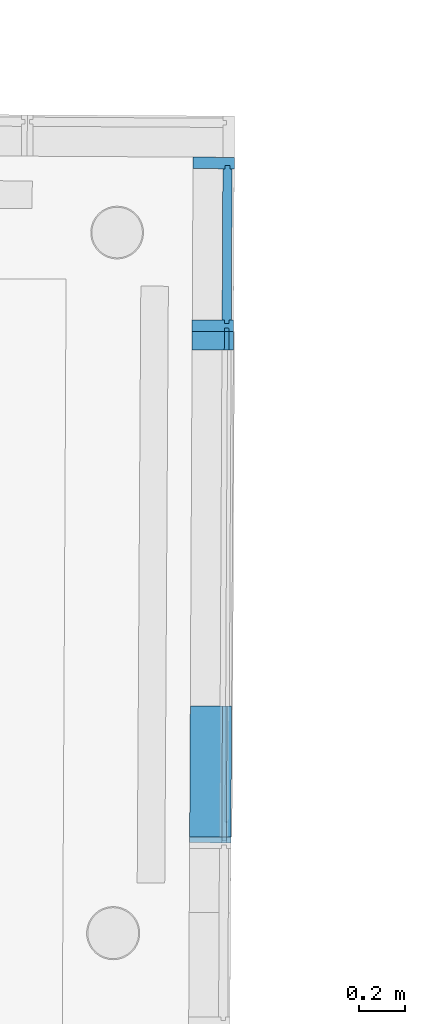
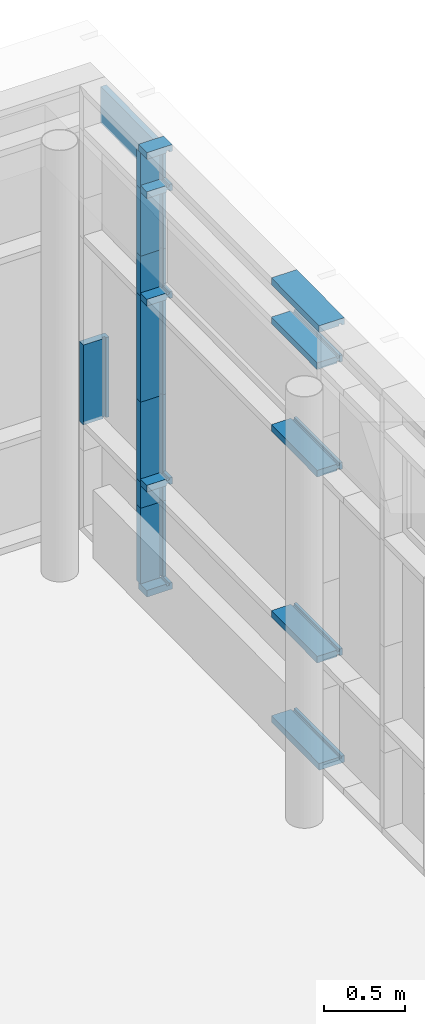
# One storey, part 184 of 196: 19 building element parts, 1 element without a shape of its own.
"""IFC2X3 building model written with IfcOpenShell, lengths in metres."""

from ifc_helpers import new_model, entity, si_unit, converted_unit, derived_unit, money_unit, direction, frame, origin_with_axes, place, context, subcontext, project, spatial, faceted_brep, material, type_object, element, aggregate, save


model = new_model("IFC2X3")

# Units and contexts
model_context = context("Model", 3, precision=1e-05, world=origin_with_axes(), true_north=direction((0.0, 1.0)))
body_context = subcontext(model_context, "Body", "Model", "MODEL_VIEW")
ifc_project = project(units=[si_unit("LENGTHUNIT", "METRE"), si_unit("AREAUNIT", "SQUARE_METRE"), si_unit("VOLUMEUNIT", "CUBIC_METRE"), converted_unit("PLANEANGLEUNIT", "DEGREE", entity("IfcPlaneAngleMeasure", 0.0174532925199), si_unit("PLANEANGLEUNIT", "RADIAN"), dimensions=[0, 0, 0, 0, 0, 0, 0]), money_unit("EUR"), converted_unit("TIMEUNIT", "Year", entity("IfcTimeMeasure", 31556926.0), si_unit("TIMEUNIT", "SECOND"), dimensions=[0, 0, 1, 0, 0, 0, 0]), si_unit("MASSUNIT", "GRAM", prefix="KILO"), si_unit("THERMODYNAMICTEMPERATUREUNIT", "DEGREE_CELSIUS"), si_unit("LUMINOUSINTENSITYUNIT", "LUMEN"), si_unit("ENERGYUNIT", "JOULE", prefix="MEGA"), derived_unit("THERMALCONDUCTANCEUNIT", [(si_unit("POWERUNIT", "WATT"), 1), (si_unit("LENGTHUNIT", "METRE"), -1), (si_unit("THERMODYNAMICTEMPERATUREUNIT", "KELVIN"), -1)]), derived_unit("SPECIFICHEATCAPACITYUNIT", [(si_unit("ENERGYUNIT", "JOULE"), 1), (si_unit("MASSUNIT", "GRAM", prefix="KILO"), -1), (si_unit("THERMODYNAMICTEMPERATUREUNIT", "KELVIN"), -1)]), derived_unit("MASSDENSITYUNIT", [(si_unit("MASSUNIT", "GRAM", prefix="KILO"), 1), (si_unit("VOLUMEUNIT", "CUBIC_METRE"), -1)])], contexts=[model_context])

# Site, building, storey
site_placement = place(None, origin_with_axes())
site = spatial("IfcSite", under=ifc_project, at=site_placement, Name="Gelände", CompositionType="ELEMENT")
building_placement = place(site_placement, origin_with_axes())
building = spatial("IfcBuilding", under=site, at=building_placement, Name="Gebäude", CompositionType="ELEMENT")
storey_placement = place(building_placement, frame((0.0, 0.0, -3.0), z_axis=(0.0, 0.0, 1.0), x_axis=(1.0, 0.0, 0.0)))
storey = spatial("IfcBuildingStorey", under=building, at=storey_placement, Name="KELLERGESCHOSS", CompositionType="ELEMENT", Elevation=-3.0)

# Proxy, building element parts
building_element_proxy_type = type_object("IfcBuildingElementProxyType", Name="Fassadentyp", PredefinedType="NOTDEFINED")
proxy_placement = place(storey_placement, frame((9.16160365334, 37.7476945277, 0.610000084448), z_axis=(0.0, 0.0, 1.0), x_axis=(1.0, 0.0, 0.0)))
proxy = element("IfcBuildingElementProxy", 1, at=proxy_placement, inside=storey, type_object=building_element_proxy_type, Name="Fassade-002")
ifc_material_1 = material(Name="45_Glas, Normalglas")
building_element_part_1_placement = place(proxy_placement, origin_with_axes())
building_element_part_1 = element("IfcBuildingElementPart", 2, at=building_element_part_1_placement, material=ifc_material_1, Name="45_Glas, Normalglas", context=body_context, shape_type="Brep", body=[
    faceted_brep([(0.0201625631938, 7.92294951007, 3.3149999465), (0.0166680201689, 7.23357839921, 3.3149999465), (0.056667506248, 7.2333756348, 3.3149999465), (0.060162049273, 7.92274674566, 3.3149999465), (0.0201625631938, 7.92294951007, 3.0394964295), (0.0166680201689, 7.23357839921, 3.0394964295), (0.056667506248, 7.2333756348, 3.0394964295), (0.060162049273, 7.92274674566, 3.0394964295)], [[[0, 1, 2, 3]], [[0, 4, 5, 1]], [[1, 5, 6, 2]], [[3, 2, 6, 7]], [[4, 0, 3, 7]], [[5, 4, 7, 6]]]),
])
ifc_material_2 = material(Name="53_Metall, Aluminium")
building_element_part_2_placement = place(proxy_placement, origin_with_axes())
building_element_part_2 = element("IfcBuildingElementPart", 3, at=building_element_part_2_placement, material=ifc_material_2, Name="53_Metall, Aluminium", context=body_context, shape_type="Brep", body=[
    faceted_brep([(0.0301624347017, 7.92289881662, 1.41999991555), (0.0501621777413, 7.92279743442, 1.41999991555), (0.0500861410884, 7.90779762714, 1.41999991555), (0.0700858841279, 7.90769624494, 1.41999991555), (0.0703393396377, 7.95769560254, 1.41999991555), (-0.109658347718, 7.95860804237, 1.41999991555), (-0.109911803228, 7.90860868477, 1.41999991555), (0.0300863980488, 7.90789900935, 1.41999991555), (0.0301624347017, 7.92289881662, 0.817169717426), (0.0501621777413, 7.92279743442, 0.817169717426), (0.0500861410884, 7.90779762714, 0.817169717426), (0.0700858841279, 7.90769624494, 0.817169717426), (0.0703393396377, 7.95769560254, 0.817169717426), (-0.109658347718, 7.95860804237, 0.817169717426), (-0.109911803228, 7.90860868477, 0.817169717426), (0.0300863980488, 7.90789900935, 0.817169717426)], [[[0, 1, 2, 3, 4, 5, 6, 7]], [[1, 0, 8, 9]], [[10, 2, 1, 9]], [[2, 10, 11, 3]], [[12, 4, 3, 11]], [[13, 5, 4, 12]], [[14, 6, 5, 13]], [[15, 7, 6, 14]], [[0, 7, 15, 8]], [[8, 15, 14, 13, 12, 11, 10, 9]]]),
])
building_element_part_3_placement = place(proxy_placement, origin_with_axes())
building_element_part_3 = element("IfcBuildingElementPart", 4, at=building_element_part_3_placement, material=ifc_material_2, Name="53_Metall, Aluminium", context=body_context, shape_type="Brep", body=[
    faceted_brep([(0.0182253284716, 5.56805696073, 0.0349999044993), (0.0382250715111, 5.56795557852, 0.0349999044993), (0.0382250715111, 5.56795557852, 0.0499999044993), (0.0582248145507, 5.56785419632, 0.0499999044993), (0.0582248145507, 5.56785419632, -9.55007117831e-08), (-0.121772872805, 5.56876663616, -9.55007117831e-08), (-0.121772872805, 5.56876663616, 0.0499999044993), (0.0182253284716, 5.56805696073, 0.0499999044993), (0.0152063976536, 4.97251022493, 0.0349999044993), (0.0352061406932, 4.97240884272, 0.0349999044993), (0.0352061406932, 4.97240884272, 0.0499999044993), (0.0552058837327, 4.97230746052, 0.0499999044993), (0.0552058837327, 4.97230746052, -9.55007117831e-08), (-0.124791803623, 4.97321990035, -9.55007117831e-08), (-0.124791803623, 4.97321990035, 0.0499999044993), (0.0152063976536, 4.97251022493, 0.0499999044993)], [[[0, 1, 2, 3, 4, 5, 6, 7]], [[1, 0, 8, 9]], [[10, 2, 1, 9]], [[2, 10, 11, 3]], [[12, 4, 3, 11]], [[13, 5, 4, 12]], [[14, 6, 5, 13]], [[15, 7, 6, 14]], [[0, 7, 15, 8]], [[8, 15, 14, 13, 12, 11, 10, 9]]]),
])
building_element_part_4_placement = place(proxy_placement, origin_with_axes())
building_element_part_4 = element("IfcBuildingElementPart", 5, at=building_element_part_4_placement, material=ifc_material_2, Name="53_Metall, Aluminium", context=body_context, shape_type="Brep", body=[
    faceted_brep([(0.0182253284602, 5.56805695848, 3.31499994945), (0.0182253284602, 5.56805695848, 3.29999994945), (-0.121772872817, 5.5687666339, 3.29999994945), (-0.121772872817, 5.5687666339, 3.34999994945), (0.0582248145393, 5.56785419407, 3.34999994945), (0.0582248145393, 5.56785419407, 3.29999994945), (0.0382250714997, 5.56795557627, 3.29999994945), (0.0382250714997, 5.56795557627, 3.31499994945), (0.0152063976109, 4.9725102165, 3.31499994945), (0.0152063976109, 4.9725102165, 3.29999994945), (-0.124791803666, 4.97321989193, 3.29999994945), (-0.124791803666, 4.97321989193, 3.34999994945), (0.05520588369, 4.97230745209, 3.34999994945), (0.05520588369, 4.97230745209, 3.29999994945), (0.0352061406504, 4.9724088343, 3.29999994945), (0.0352061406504, 4.9724088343, 3.31499994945)], [[[0, 1, 2, 3, 4, 5, 6, 7]], [[0, 8, 9, 1]], [[9, 10, 2, 1]], [[10, 11, 3, 2]], [[11, 12, 4, 3]], [[12, 13, 5, 4]], [[6, 5, 13, 14]], [[14, 15, 7, 6]], [[7, 15, 8, 0]], [[8, 15, 14, 13, 12, 11, 10, 9]]]),
])
building_element_part_5_placement = place(proxy_placement, origin_with_axes())
building_element_part_5 = element("IfcBuildingElementPart", 6, at=building_element_part_5_placement, material=ifc_material_2, Name="53_Metall, Aluminium", context=body_context, shape_type="Brep", body=[
    faceted_brep([(0.0182253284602, 5.56805695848, 0.807169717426), (0.0182253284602, 5.56805695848, 0.792169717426), (-0.121772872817, 5.5687666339, 0.792169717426), (-0.121772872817, 5.5687666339, 0.842169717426), (0.0182253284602, 5.56805695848, 0.842169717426), (0.0182253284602, 5.56805695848, 0.827169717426), (0.0382250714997, 5.56795557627, 0.827169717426), (0.0382250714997, 5.56795557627, 0.842169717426), (0.0582248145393, 5.56785419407, 0.842169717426), (0.0582248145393, 5.56785419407, 0.792169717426), (0.0382250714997, 5.56795557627, 0.792169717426), (0.0382250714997, 5.56795557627, 0.807169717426), (0.0153331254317, 4.99750990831, 0.807169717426), (0.0153331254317, 4.99750990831, 0.792169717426), (-0.124665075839, 4.99821958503, 0.792169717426), (-0.124665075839, 4.99821958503, 0.842169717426), (0.0153331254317, 4.99750990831, 0.842169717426), (0.0153331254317, 4.99750990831, 0.827169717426), (0.0353328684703, 4.99740852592, 0.827169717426), (0.0353328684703, 4.99740852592, 0.842169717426), (0.055332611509, 4.99730714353, 0.842169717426), (0.055332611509, 4.99730714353, 0.792169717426), (0.0353328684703, 4.99740852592, 0.792169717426), (0.0353328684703, 4.99740852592, 0.807169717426)], [[[0, 1, 2, 3, 4, 5, 6, 7, 8, 9, 10, 11]], [[1, 0, 12, 13]], [[1, 13, 14, 2]], [[2, 14, 15, 3]], [[4, 3, 15, 16]], [[4, 16, 17, 5]], [[5, 17, 18, 6]], [[7, 6, 18, 19]], [[19, 20, 8, 7]], [[8, 20, 21, 9]], [[22, 10, 9, 21]], [[11, 10, 22, 23]], [[0, 11, 23, 12]], [[23, 22, 21, 20, 19, 18, 17, 16, 15, 14, 13, 12]]]),
])
building_element_part_6_placement = place(proxy_placement, origin_with_axes())
building_element_part_6 = element("IfcBuildingElementPart", 7, at=building_element_part_6_placement, material=ifc_material_2, Name="53_Metall, Aluminium", context=body_context, shape_type="Brep", body=[
    faceted_brep([(0.0182253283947, 5.56805694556, 3.01949642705), (0.0182253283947, 5.56805694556, 3.00449642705), (-0.121772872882, 5.56876662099, 3.00449642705), (-0.121772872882, 5.56876662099, 3.05449642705), (0.0182253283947, 5.56805694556, 3.05449642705), (0.0182253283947, 5.56805694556, 3.03949642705), (0.0382250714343, 5.56795556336, 3.03949642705), (0.0382250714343, 5.56795556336, 3.05449642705), (0.0582248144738, 5.56785418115, 3.05449642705), (0.0582248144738, 5.56785418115, 3.00449642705), (0.0382250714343, 5.56795556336, 3.00449642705), (0.0382250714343, 5.56795556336, 3.01949642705), (0.0153331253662, 4.99750989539, 3.01949642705), (0.0153331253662, 4.99750989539, 3.00449642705), (-0.124665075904, 4.99821957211, 3.00449642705), (-0.124665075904, 4.99821957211, 3.05449642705), (0.0153331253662, 4.99750989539, 3.05449642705), (0.0153331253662, 4.99750989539, 3.03949642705), (0.0353328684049, 4.997408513, 3.03949642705), (0.0353328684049, 4.997408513, 3.05449642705), (0.0553326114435, 4.99730713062, 3.05449642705), (0.0553326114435, 4.99730713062, 3.00449642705), (0.0353328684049, 4.997408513, 3.00449642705), (0.0353328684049, 4.997408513, 3.01949642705)], [[[0, 1, 2, 3, 4, 5, 6, 7, 8, 9, 10, 11]], [[1, 0, 12, 13]], [[1, 13, 14, 2]], [[2, 14, 15, 3]], [[4, 3, 15, 16]], [[4, 16, 17, 5]], [[5, 17, 18, 6]], [[7, 6, 18, 19]], [[19, 20, 8, 7]], [[8, 20, 21, 9]], [[22, 10, 9, 21]], [[11, 10, 22, 23]], [[0, 11, 23, 12]], [[23, 22, 21, 20, 19, 18, 17, 16, 15, 14, 13, 12]]]),
])
building_element_part_7_placement = place(proxy_placement, origin_with_axes())
building_element_part_7 = element("IfcBuildingElementPart", 8, at=building_element_part_7_placement, material=ifc_material_2, Name="53_Metall, Aluminium", context=body_context, shape_type="Brep", body=[
    faceted_brep([(0.0182253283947, 5.56805694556, 2.20916310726), (0.0182253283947, 5.56805694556, 2.19416310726), (-0.121772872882, 5.56876662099, 2.19416310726), (-0.121772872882, 5.56876662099, 2.24416310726), (0.0182253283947, 5.56805694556, 2.24416310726), (0.0182253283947, 5.56805694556, 2.22916310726), (0.0382250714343, 5.56795556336, 2.22916310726), (0.0382250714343, 5.56795556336, 2.24416310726), (0.0582248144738, 5.56785418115, 2.24416310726), (0.0582248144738, 5.56785418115, 2.19416310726), (0.0382250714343, 5.56795556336, 2.19416310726), (0.0382250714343, 5.56795556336, 2.20916310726), (0.0153331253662, 4.99750989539, 2.20916310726), (0.0153331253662, 4.99750989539, 2.19416310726), (-0.124665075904, 4.99821957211, 2.19416310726), (-0.124665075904, 4.99821957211, 2.24416310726), (0.0153331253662, 4.99750989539, 2.24416310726), (0.0153331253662, 4.99750989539, 2.22916310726), (0.0353328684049, 4.997408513, 2.22916310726), (0.0353328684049, 4.997408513, 2.24416310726), (0.0553326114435, 4.99730713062, 2.24416310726), (0.0553326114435, 4.99730713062, 2.19416310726), (0.0353328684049, 4.997408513, 2.19416310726), (0.0353328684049, 4.997408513, 2.20916310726)], [[[0, 1, 2, 3, 4, 5, 6, 7, 8, 9, 10, 11]], [[1, 0, 12, 13]], [[1, 13, 14, 2]], [[2, 14, 15, 3]], [[4, 3, 15, 16]], [[4, 16, 17, 5]], [[5, 17, 18, 6]], [[7, 6, 18, 19]], [[19, 20, 8, 7]], [[8, 20, 21, 9]], [[22, 10, 9, 21]], [[11, 10, 22, 23]], [[0, 11, 23, 12]], [[23, 22, 21, 20, 19, 18, 17, 16, 15, 14, 13, 12]]]),
])
building_element_part_8_placement = place(proxy_placement, origin_with_axes())
building_element_part_8 = element("IfcBuildingElementPart", 9, at=building_element_part_8_placement, material=ifc_material_2, Name="53_Metall, Aluminium", context=body_context, shape_type="Brep", body=[
    faceted_brep([(0.0266678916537, 7.23352770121, 1.41999990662), (0.0267439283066, 7.24852750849, 1.41999990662), (-0.11325427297, 7.24923718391, 1.41999990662), (-0.11350772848, 7.19923782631, 1.41999990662), (0.0264904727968, 7.19852815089, 1.41999990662), (0.0265665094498, 7.21352795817, 1.41999990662), (0.0465662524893, 7.21342657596, 1.41999990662), (0.0464902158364, 7.19842676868, 1.41999990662), (0.066489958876, 7.19832538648, 1.41999990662), (0.0667434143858, 7.24832474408, 1.41999990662), (0.0467436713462, 7.24842612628, 1.41999990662), (0.0466676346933, 7.233426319, 1.41999990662), (0.0266678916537, 7.23352770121, 0.817169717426), (0.0267439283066, 7.24852750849, 0.817169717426), (-0.11325427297, 7.24923718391, 0.817169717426), (-0.11350772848, 7.19923782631, 0.817169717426), (0.0264904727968, 7.19852815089, 0.817169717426), (0.0265665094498, 7.21352795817, 0.817169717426), (0.0465662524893, 7.21342657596, 0.817169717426), (0.0464902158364, 7.19842676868, 0.817169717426), (0.066489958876, 7.19832538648, 0.817169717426), (0.0667434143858, 7.24832474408, 0.817169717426), (0.0467436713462, 7.24842612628, 0.817169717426), (0.0466676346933, 7.233426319, 0.817169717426)], [[[0, 1, 2, 3, 4, 5, 6, 7, 8, 9, 10, 11]], [[1, 0, 12, 13]], [[1, 13, 14, 2]], [[3, 2, 14, 15]], [[4, 3, 15, 16]], [[4, 16, 17, 5]], [[5, 17, 18, 6]], [[7, 6, 18, 19]], [[19, 20, 8, 7]], [[9, 8, 20, 21]], [[22, 10, 9, 21]], [[11, 10, 22, 23]], [[0, 11, 23, 12]], [[23, 22, 21, 20, 19, 18, 17, 16, 15, 14, 13, 12]]]),
])
building_element_part_9_placement = place(proxy_placement, origin_with_axes())
building_element_part_9 = element("IfcBuildingElementPart", 10, at=building_element_part_9_placement, material=ifc_material_2, Name="53_Metall, Aluminium", context=body_context, shape_type="Brep", body=[
    faceted_brep([(0.0266172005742, 7.22352783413, 3.31499994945), (0.0266172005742, 7.22352783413, 3.29999994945), (-0.113381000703, 7.22423750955, 3.29999994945), (-0.113381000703, 7.22423750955, 3.34999994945), (0.0666166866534, 7.22332506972, 3.34999994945), (0.0666166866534, 7.22332506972, 3.29999994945), (0.0466169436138, 7.22342645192, 3.29999994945), (0.0466169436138, 7.22342645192, 3.31499994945), (0.0260824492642, 7.11803704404, 3.31499994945), (0.0260824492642, 7.11803704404, 3.29999994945), (-0.113915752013, 7.11874671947, 3.29999994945), (-0.113915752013, 7.11874671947, 3.34999994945), (0.0660819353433, 7.11783427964, 3.34999994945), (0.0660819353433, 7.11783427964, 3.29999994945), (0.0460821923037, 7.11793566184, 3.29999994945), (0.0460821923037, 7.11793566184, 3.31499994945)], [[[0, 1, 2, 3, 4, 5, 6, 7]], [[0, 8, 9, 1]], [[9, 10, 2, 1]], [[10, 11, 3, 2]], [[11, 12, 4, 3]], [[12, 13, 5, 4]], [[6, 5, 13, 14]], [[14, 15, 7, 6]], [[7, 15, 8, 0]], [[8, 15, 14, 13, 12, 11, 10, 9]]]),
])
building_element_part_10_placement = place(proxy_placement, origin_with_axes())
building_element_part_10 = element("IfcBuildingElementPart", 11, at=building_element_part_10_placement, material=ifc_material_2, Name="53_Metall, Aluminium", context=body_context, shape_type="Brep", body=[
    faceted_brep([(0.0266678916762, 7.23352770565, 2.51999992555), (0.0267439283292, 7.24852751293, 2.51999992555), (-0.113254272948, 7.24923718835, 2.51999992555), (-0.113507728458, 7.19923783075, 2.51999992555), (0.0264904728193, 7.19852815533, 2.51999992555), (0.0265665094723, 7.21352796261, 2.51999992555), (0.0465662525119, 7.2134265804, 2.51999992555), (0.0464902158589, 7.19842677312, 2.51999992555), (0.0664899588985, 7.19832539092, 2.51999992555), (0.0667434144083, 7.24832474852, 2.51999992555), (0.0467436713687, 7.24842613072, 2.51999992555), (0.0466676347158, 7.23342632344, 2.51999992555), (0.0266678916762, 7.23352770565, 2.21916310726), (0.0267439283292, 7.24852751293, 2.21916310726), (-0.113254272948, 7.24923718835, 2.21916310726), (-0.113507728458, 7.19923783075, 2.21916310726), (0.0264904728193, 7.19852815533, 2.21916310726), (0.0265665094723, 7.21352796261, 2.21916310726), (0.0465662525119, 7.2134265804, 2.21916310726), (0.0464902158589, 7.19842677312, 2.21916310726), (0.0664899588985, 7.19832539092, 2.21916310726), (0.0667434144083, 7.24832474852, 2.21916310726), (0.0467436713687, 7.24842613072, 2.21916310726), (0.0466676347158, 7.23342632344, 2.21916310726)], [[[0, 1, 2, 3, 4, 5, 6, 7, 8, 9, 10, 11]], [[1, 0, 12, 13]], [[1, 13, 14, 2]], [[3, 2, 14, 15]], [[4, 3, 15, 16]], [[4, 16, 17, 5]], [[5, 17, 18, 6]], [[7, 6, 18, 19]], [[19, 20, 8, 7]], [[9, 8, 20, 21]], [[22, 10, 9, 21]], [[11, 10, 22, 23]], [[0, 11, 23, 12]], [[23, 22, 21, 20, 19, 18, 17, 16, 15, 14, 13, 12]]]),
])
building_element_part_11_placement = place(proxy_placement, origin_with_axes())
building_element_part_11 = element("IfcBuildingElementPart", 12, at=building_element_part_11_placement, material=ifc_material_2, Name="53_Metall, Aluminium", context=body_context, shape_type="Brep", body=[
    faceted_brep([(0.026617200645, 7.22352784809, 0.0349999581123), (0.0466169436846, 7.22342646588, 0.0349999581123), (0.0466169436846, 7.22342646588, 0.0499999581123), (0.0666166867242, 7.22332508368, 0.0499999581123), (0.0666166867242, 7.22332508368, -4.18876591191e-08), (-0.113381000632, 7.22423752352, -4.18876591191e-08), (-0.113381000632, 7.22423752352, 0.0499999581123), (0.026617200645, 7.22352784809, 0.0499999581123), (0.0260824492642, 7.11803704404, 0.0349999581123), (0.0460821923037, 7.11793566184, 0.0349999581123), (0.0460821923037, 7.11793566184, 0.0499999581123), (0.0660819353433, 7.11783427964, 0.0499999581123), (0.0660819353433, 7.11783427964, -4.18876591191e-08), (-0.113915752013, 7.11874671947, -4.18876591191e-08), (-0.113915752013, 7.11874671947, 0.0499999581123), (0.0260824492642, 7.11803704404, 0.0499999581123)], [[[0, 1, 2, 3, 4, 5, 6, 7]], [[1, 0, 8, 9]], [[10, 2, 1, 9]], [[2, 10, 11, 3]], [[12, 4, 3, 11]], [[13, 5, 4, 12]], [[14, 6, 5, 13]], [[15, 7, 6, 14]], [[0, 7, 15, 8]], [[8, 15, 14, 13, 12, 11, 10, 9]]]),
])
building_element_part_12_placement = place(proxy_placement, origin_with_axes())
building_element_part_12 = element("IfcBuildingElementPart", 13, at=building_element_part_12_placement, material=ifc_material_2, Name="53_Metall, Aluminium", context=body_context, shape_type="Brep", body=[
    faceted_brep([(0.026667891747, 7.23352771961, 0.619999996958), (0.0267439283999, 7.24852752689, 0.619999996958), (-0.113254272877, 7.24923720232, 0.619999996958), (-0.113507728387, 7.19923784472, 0.619999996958), (0.0264904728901, 7.19852816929, 0.619999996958), (0.0265665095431, 7.21352797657, 0.619999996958), (0.0465662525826, 7.21342659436, 0.619999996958), (0.0464902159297, 7.19842678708, 0.619999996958), (0.0664899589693, 7.19832540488, 0.619999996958), (0.0667434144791, 7.24832476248, 0.619999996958), (0.0467436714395, 7.24842614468, 0.619999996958), (0.0466676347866, 7.2334263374, 0.619999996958), (0.026667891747, 7.23352771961, 0.0499999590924), (0.0267439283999, 7.24852752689, 0.0499999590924), (-0.113254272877, 7.24923720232, 0.0499999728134), (-0.113507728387, 7.19923784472, 0.0499999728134), (0.0264904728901, 7.19852816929, 0.0499999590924), (0.0265665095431, 7.21352797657, 0.0499999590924), (0.0465662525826, 7.21342659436, 0.0499999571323), (0.0464902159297, 7.19842678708, 0.0499999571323), (0.0664899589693, 7.19832540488, 0.0499999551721), (0.0667434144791, 7.24832476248, 0.0499999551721), (0.0467436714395, 7.24842614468, 0.0499999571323), (0.0466676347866, 7.2334263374, 0.0499999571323)], [[[0, 1, 2, 3, 4, 5, 6, 7, 8, 9, 10, 11]], [[1, 0, 12, 13]], [[1, 13, 14, 2]], [[2, 14, 15, 3]], [[4, 3, 15, 16]], [[4, 16, 17, 5]], [[5, 17, 18, 6]], [[7, 6, 18, 19]], [[19, 20, 8, 7]], [[8, 20, 21, 9]], [[22, 10, 9, 21]], [[11, 10, 22, 23]], [[0, 11, 23, 12]], [[23, 22, 21, 20, 19, 18, 17, 16, 15, 14, 13, 12]]]),
])
building_element_part_13_placement = place(proxy_placement, origin_with_axes())
building_element_part_13 = element("IfcBuildingElementPart", 14, at=building_element_part_13_placement, material=ifc_material_2, Name="53_Metall, Aluminium", context=body_context, shape_type="Brep", body=[
    faceted_brep([(0.0266678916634, 7.23352770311, 2.21916309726), (0.0267439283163, 7.24852751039, 2.21916309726), (-0.113254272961, 7.24923718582, 2.21916309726), (-0.11350772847, 7.19923782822, 2.21916309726), (0.0264904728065, 7.1985281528, 2.21916309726), (0.0265665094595, 7.21352796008, 2.21916309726), (0.046566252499, 7.21342657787, 2.21916309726), (0.0464902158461, 7.19842677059, 2.21916309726), (0.0664899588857, 7.19832538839, 2.21916309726), (0.0667434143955, 7.24832474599, 2.21916309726), (0.0467436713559, 7.24842612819, 2.21916309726), (0.0466676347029, 7.23342632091, 2.21916309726), (0.0266678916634, 7.23352770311, 1.41999991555), (0.0267439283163, 7.24852751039, 1.41999991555), (-0.113254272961, 7.24923718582, 1.41999991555), (-0.11350772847, 7.19923782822, 1.41999991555), (0.0264904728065, 7.1985281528, 1.41999991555), (0.0265665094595, 7.21352796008, 1.41999991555), (0.046566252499, 7.21342657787, 1.41999991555), (0.0464902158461, 7.19842677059, 1.41999991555), (0.0664899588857, 7.19832538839, 1.41999991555), (0.0667434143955, 7.24832474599, 1.41999991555), (0.0467436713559, 7.24842612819, 1.41999991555), (0.0466676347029, 7.23342632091, 1.41999991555)], [[[0, 1, 2, 3, 4, 5, 6, 7, 8, 9, 10, 11]], [[1, 0, 12, 13]], [[1, 13, 14, 2]], [[3, 2, 14, 15]], [[4, 3, 15, 16]], [[4, 16, 17, 5]], [[5, 17, 18, 6]], [[7, 6, 18, 19]], [[19, 20, 8, 7]], [[9, 8, 20, 21]], [[22, 10, 9, 21]], [[11, 10, 22, 23]], [[0, 11, 23, 12]], [[23, 22, 21, 20, 19, 18, 17, 16, 15, 14, 13, 12]]]),
])
building_element_part_14_placement = place(proxy_placement, origin_with_axes())
building_element_part_14 = element("IfcBuildingElementPart", 15, at=building_element_part_14_placement, material=ifc_material_2, Name="53_Metall, Aluminium", context=body_context, shape_type="Brep", body=[
    faceted_brep([(0.0266678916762, 7.23352770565, 3.02949640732), (0.0267439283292, 7.24852751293, 3.02949640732), (-0.113254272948, 7.24923718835, 3.02949640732), (-0.113507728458, 7.19923783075, 3.02949640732), (0.0264904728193, 7.19852815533, 3.02949640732), (0.0265665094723, 7.21352796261, 3.02949640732), (0.0465662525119, 7.2134265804, 3.02949640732), (0.0464902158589, 7.19842677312, 3.02949640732), (0.0664899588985, 7.19832539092, 3.02949640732), (0.0667434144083, 7.24832474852, 3.02949640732), (0.0467436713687, 7.24842613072, 3.02949640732), (0.0466676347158, 7.23342632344, 3.02949640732), (0.0266678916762, 7.23352770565, 2.51999991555), (0.0267439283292, 7.24852751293, 2.51999991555), (-0.113254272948, 7.24923718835, 2.51999991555), (-0.113507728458, 7.19923783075, 2.51999991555), (0.0264904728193, 7.19852815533, 2.51999991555), (0.0265665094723, 7.21352796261, 2.51999991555), (0.0465662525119, 7.2134265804, 2.51999991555), (0.0464902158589, 7.19842677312, 2.51999991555), (0.0664899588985, 7.19832539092, 2.51999991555), (0.0667434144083, 7.24832474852, 2.51999991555), (0.0467436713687, 7.24842613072, 2.51999991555), (0.0466676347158, 7.23342632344, 2.51999991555)], [[[0, 1, 2, 3, 4, 5, 6, 7, 8, 9, 10, 11]], [[1, 0, 12, 13]], [[1, 13, 14, 2]], [[3, 2, 14, 15]], [[4, 3, 15, 16]], [[4, 16, 17, 5]], [[5, 17, 18, 6]], [[7, 6, 18, 19]], [[19, 20, 8, 7]], [[9, 8, 20, 21]], [[22, 10, 9, 21]], [[11, 10, 22, 23]], [[0, 11, 23, 12]], [[23, 22, 21, 20, 19, 18, 17, 16, 15, 14, 13, 12]]]),
])
building_element_part_15_placement = place(proxy_placement, origin_with_axes())
building_element_part_15 = element("IfcBuildingElementPart", 16, at=building_element_part_15_placement, material=ifc_material_2, Name="53_Metall, Aluminium", context=body_context, shape_type="Brep", body=[
    faceted_brep([(0.0264904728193, 7.19852815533, 2.20916310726), (0.0264904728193, 7.19852815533, 2.19416310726), (-0.113507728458, 7.19923783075, 2.19416310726), (-0.113507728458, 7.19923783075, 2.24416310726), (0.0264904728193, 7.19852815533, 2.24416310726), (0.0264904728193, 7.19852815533, 2.22916310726), (0.0464902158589, 7.19842677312, 2.22916310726), (0.0464902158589, 7.19842677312, 2.24416310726), (0.0664899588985, 7.19832539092, 2.24416310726), (0.0664899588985, 7.19832539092, 2.19416310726), (0.0464902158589, 7.19842677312, 2.19416310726), (0.0464902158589, 7.19842677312, 2.20916310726), (0.0260824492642, 7.11803704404, 2.20916310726), (0.0260824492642, 7.11803704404, 2.19416310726), (-0.113915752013, 7.11874671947, 2.19416310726), (-0.113915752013, 7.11874671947, 2.24416310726), (0.0260824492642, 7.11803704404, 2.24416310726), (0.0260824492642, 7.11803704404, 2.22916310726), (0.0460821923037, 7.11793566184, 2.22916310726), (0.0460821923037, 7.11793566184, 2.24416310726), (0.0660819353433, 7.11783427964, 2.24416310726), (0.0660819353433, 7.11783427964, 2.19416310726), (0.0460821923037, 7.11793566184, 2.19416310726), (0.0460821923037, 7.11793566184, 2.20916310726)], [[[0, 1, 2, 3, 4, 5, 6, 7, 8, 9, 10, 11]], [[1, 0, 12, 13]], [[1, 13, 14, 2]], [[3, 2, 14, 15]], [[4, 3, 15, 16]], [[4, 16, 17, 5]], [[5, 17, 18, 6]], [[7, 6, 18, 19]], [[19, 20, 8, 7]], [[9, 8, 20, 21]], [[22, 10, 9, 21]], [[11, 10, 22, 23]], [[0, 11, 23, 12]], [[23, 22, 21, 20, 19, 18, 17, 16, 15, 14, 13, 12]]]),
])
building_element_part_16_placement = place(proxy_placement, origin_with_axes())
building_element_part_16 = element("IfcBuildingElementPart", 17, at=building_element_part_16_placement, material=ifc_material_2, Name="53_Metall, Aluminium", context=body_context, shape_type="Brep", body=[
    faceted_brep([(0.0266678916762, 7.23352770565, 0.817169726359), (0.0267439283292, 7.24852751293, 0.817169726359), (-0.113254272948, 7.24923718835, 0.817169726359), (-0.113507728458, 7.19923783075, 0.817169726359), (0.0264904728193, 7.19852815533, 0.817169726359), (0.0265665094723, 7.21352796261, 0.817169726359), (0.0465662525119, 7.2134265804, 0.817169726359), (0.0464902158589, 7.19842677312, 0.817169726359), (0.0664899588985, 7.19832539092, 0.817169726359), (0.0667434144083, 7.24832474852, 0.817169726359), (0.0467436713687, 7.24842613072, 0.817169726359), (0.0466676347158, 7.23342632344, 0.817169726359), (0.0266678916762, 7.23352770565, 0.619999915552), (0.0267439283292, 7.24852751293, 0.619999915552), (-0.113254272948, 7.24923718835, 0.619999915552), (-0.113507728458, 7.19923783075, 0.619999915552), (0.0264904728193, 7.19852815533, 0.619999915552), (0.0265665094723, 7.21352796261, 0.619999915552), (0.0465662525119, 7.2134265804, 0.619999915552), (0.0464902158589, 7.19842677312, 0.619999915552), (0.0664899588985, 7.19832539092, 0.619999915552), (0.0667434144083, 7.24832474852, 0.619999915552), (0.0467436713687, 7.24842613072, 0.619999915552), (0.0466676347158, 7.23342632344, 0.619999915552)], [[[0, 1, 2, 3, 4, 5, 6, 7, 8, 9, 10, 11]], [[1, 0, 12, 13]], [[1, 13, 14, 2]], [[3, 2, 14, 15]], [[4, 3, 15, 16]], [[4, 16, 17, 5]], [[5, 17, 18, 6]], [[7, 6, 18, 19]], [[19, 20, 8, 7]], [[9, 8, 20, 21]], [[22, 10, 9, 21]], [[11, 10, 22, 23]], [[0, 11, 23, 12]], [[23, 22, 21, 20, 19, 18, 17, 16, 15, 14, 13, 12]]]),
])
building_element_part_17_placement = place(proxy_placement, origin_with_axes())
building_element_part_17 = element("IfcBuildingElementPart", 18, at=building_element_part_17_placement, material=ifc_material_2, Name="53_Metall, Aluminium", context=body_context, shape_type="Brep", body=[
    faceted_brep([(0.0264904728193, 7.19852815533, 0.807169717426), (0.0264904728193, 7.19852815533, 0.792169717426), (-0.113507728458, 7.19923783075, 0.792169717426), (-0.113507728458, 7.19923783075, 0.842169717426), (0.0264904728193, 7.19852815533, 0.842169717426), (0.0264904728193, 7.19852815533, 0.827169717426), (0.0464902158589, 7.19842677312, 0.827169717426), (0.0464902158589, 7.19842677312, 0.842169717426), (0.0664899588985, 7.19832539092, 0.842169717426), (0.0664899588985, 7.19832539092, 0.792169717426), (0.0464902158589, 7.19842677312, 0.792169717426), (0.0464902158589, 7.19842677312, 0.807169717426), (0.0260824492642, 7.11803704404, 0.807169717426), (0.0260824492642, 7.11803704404, 0.792169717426), (-0.113915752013, 7.11874671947, 0.792169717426), (-0.113915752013, 7.11874671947, 0.842169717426), (0.0260824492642, 7.11803704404, 0.842169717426), (0.0260824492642, 7.11803704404, 0.827169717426), (0.0460821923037, 7.11793566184, 0.827169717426), (0.0460821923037, 7.11793566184, 0.842169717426), (0.0660819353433, 7.11783427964, 0.842169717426), (0.0660819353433, 7.11783427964, 0.792169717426), (0.0460821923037, 7.11793566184, 0.792169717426), (0.0460821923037, 7.11793566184, 0.807169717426)], [[[0, 1, 2, 3, 4, 5, 6, 7, 8, 9, 10, 11]], [[1, 0, 12, 13]], [[1, 13, 14, 2]], [[3, 2, 14, 15]], [[4, 3, 15, 16]], [[4, 16, 17, 5]], [[5, 17, 18, 6]], [[7, 6, 18, 19]], [[19, 20, 8, 7]], [[9, 8, 20, 21]], [[22, 10, 9, 21]], [[11, 10, 22, 23]], [[0, 11, 23, 12]], [[23, 22, 21, 20, 19, 18, 17, 16, 15, 14, 13, 12]]]),
])
building_element_part_18_placement = place(proxy_placement, origin_with_axes())
building_element_part_18 = element("IfcBuildingElementPart", 19, at=building_element_part_18_placement, material=ifc_material_2, Name="53_Metall, Aluminium", context=body_context, shape_type="Brep", body=[
    faceted_brep([(0.0264904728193, 7.19852815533, 3.01949642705), (0.0264904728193, 7.19852815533, 3.00449642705), (-0.113507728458, 7.19923783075, 3.00449642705), (-0.113507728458, 7.19923783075, 3.05449642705), (0.0264904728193, 7.19852815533, 3.05449642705), (0.0264904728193, 7.19852815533, 3.03949642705), (0.0464902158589, 7.19842677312, 3.03949642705), (0.0464902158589, 7.19842677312, 3.05449642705), (0.0664899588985, 7.19832539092, 3.05449642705), (0.0664899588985, 7.19832539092, 3.00449642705), (0.0464902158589, 7.19842677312, 3.00449642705), (0.0464902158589, 7.19842677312, 3.01949642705), (0.0260824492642, 7.11803704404, 3.01949642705), (0.0260824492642, 7.11803704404, 3.00449642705), (-0.113915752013, 7.11874671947, 3.00449642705), (-0.113915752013, 7.11874671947, 3.05449642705), (0.0260824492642, 7.11803704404, 3.05449642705), (0.0260824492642, 7.11803704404, 3.03949642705), (0.0460821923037, 7.11793566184, 3.03949642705), (0.0460821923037, 7.11793566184, 3.05449642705), (0.0660819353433, 7.11783427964, 3.05449642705), (0.0660819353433, 7.11783427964, 3.00449642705), (0.0460821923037, 7.11793566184, 3.00449642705), (0.0460821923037, 7.11793566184, 3.01949642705)], [[[0, 1, 2, 3, 4, 5, 6, 7, 8, 9, 10, 11]], [[1, 0, 12, 13]], [[1, 13, 14, 2]], [[3, 2, 14, 15]], [[4, 3, 15, 16]], [[4, 16, 17, 5]], [[5, 17, 18, 6]], [[7, 6, 18, 19]], [[19, 20, 8, 7]], [[9, 8, 20, 21]], [[22, 10, 9, 21]], [[11, 10, 22, 23]], [[0, 11, 23, 12]], [[23, 22, 21, 20, 19, 18, 17, 16, 15, 14, 13, 12]]]),
])
building_element_part_19_placement = place(proxy_placement, origin_with_axes())
building_element_part_19 = element("IfcBuildingElementPart", 20, at=building_element_part_19_placement, material=ifc_material_2, Name="53_Metall, Aluminium", context=body_context, shape_type="Brep", body=[
    faceted_brep([(0.0266678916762, 7.23352770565, 3.29999996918), (0.0267439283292, 7.24852751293, 3.29999996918), (-0.113254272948, 7.24923718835, 3.29999996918), (-0.113507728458, 7.19923783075, 3.29999996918), (0.0264904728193, 7.19852815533, 3.29999996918), (0.0265665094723, 7.21352796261, 3.29999996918), (0.0465662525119, 7.2134265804, 3.29999996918), (0.0464902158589, 7.19842677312, 3.29999996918), (0.0664899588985, 7.19832539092, 3.29999996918), (0.0667434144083, 7.24832474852, 3.29999996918), (0.0467436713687, 7.24842613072, 3.29999996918), (0.0466676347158, 7.23342632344, 3.29999996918), (0.0266678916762, 7.23352770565, 3.02949642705), (0.0267439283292, 7.24852751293, 3.02949642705), (-0.113254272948, 7.24923718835, 3.02949642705), (-0.113507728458, 7.19923783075, 3.02949642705), (0.0264904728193, 7.19852815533, 3.02949642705), (0.0265665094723, 7.21352796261, 3.02949642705), (0.0465662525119, 7.2134265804, 3.02949642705), (0.0464902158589, 7.19842677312, 3.02949642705), (0.0664899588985, 7.19832539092, 3.02949642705), (0.0667434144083, 7.24832474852, 3.02949642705), (0.0467436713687, 7.24842613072, 3.02949642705), (0.0466676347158, 7.23342632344, 3.02949642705)], [[[0, 1, 2, 3, 4, 5, 6, 7, 8, 9, 10, 11]], [[1, 0, 12, 13]], [[1, 13, 14, 2]], [[3, 2, 14, 15]], [[4, 3, 15, 16]], [[4, 16, 17, 5]], [[5, 17, 18, 6]], [[7, 6, 18, 19]], [[19, 20, 8, 7]], [[9, 8, 20, 21]], [[22, 10, 9, 21]], [[11, 10, 22, 23]], [[0, 11, 23, 12]], [[23, 22, 21, 20, 19, 18, 17, 16, 15, 14, 13, 12]]]),
])
aggregate(proxy, [building_element_part_1, building_element_part_2, building_element_part_3, building_element_part_4, building_element_part_5, building_element_part_6, building_element_part_7, building_element_part_8, building_element_part_9, building_element_part_10, building_element_part_11, building_element_part_12, building_element_part_13, building_element_part_14, building_element_part_15, building_element_part_16, building_element_part_17, building_element_part_18, building_element_part_19])

save(model, "model.ifc")
